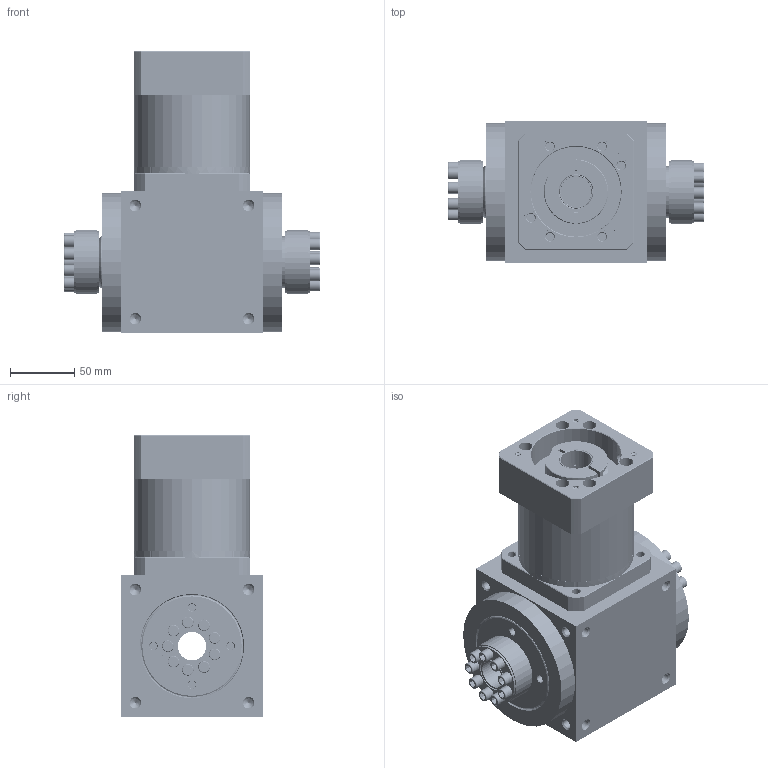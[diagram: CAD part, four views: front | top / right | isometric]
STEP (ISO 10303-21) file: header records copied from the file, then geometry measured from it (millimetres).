
FILE_DESCRIPTION (( 'STEP AP203' ), '1' );
FILE_NAME ('LAT110-LAB90-C-ZJ2-25-50.STEP', '2025-01-15T06:52:28', ( '微软用户' ), ( '微软中国' ), 'SwSTEP 2.0', 'SolidWorks 2022', '' );
FILE_SCHEMA (( 'CONFIG_CONTROL_DESIGN' ));
Products named in the file (1): LAT110-LAB90-C-ZJ2-25-50
Bounding box: 199 x 110 x 219 mm (x, y, z)
Volume: 1990987.2 mm3; surface area: 346923.6 mm2
Topology: 35 solids, 35 shells, 2382 faces, 5859 edges, 3582 vertices
Faces by surface type: cylinder 1022, plane 793, cone 335, bspline 186, torus 46
Entity records: 131672 total; most frequent: CARTESIAN_POINT 79806, ORIENTED_EDGE 11638, DIRECTION 10058, EDGE_CURVE 5819, AXIS2_PLACEMENT_3D 4165, VERTEX_POINT 3582, EDGE_LOOP 2627, FACE_OUTER_BOUND 2382
